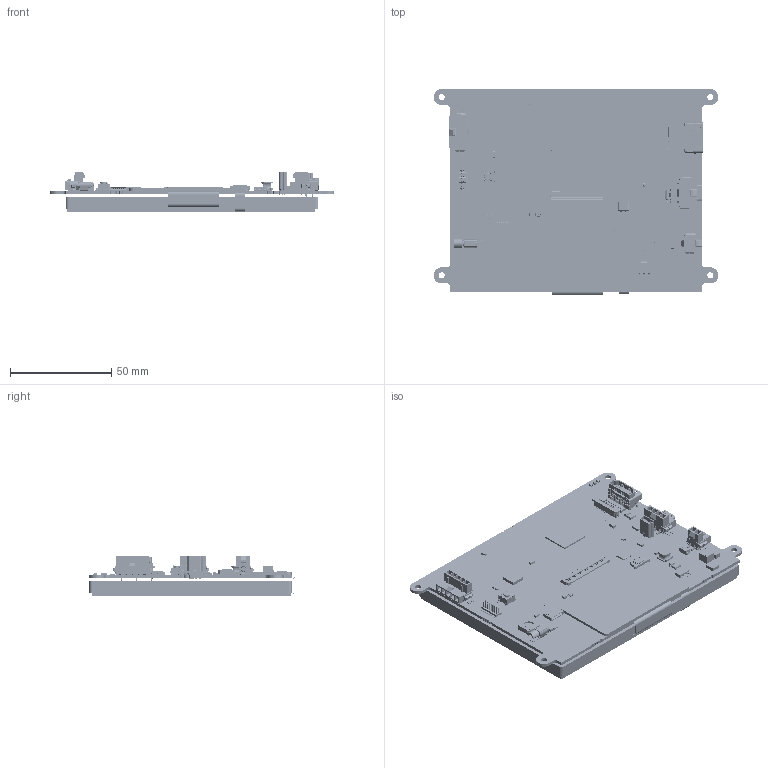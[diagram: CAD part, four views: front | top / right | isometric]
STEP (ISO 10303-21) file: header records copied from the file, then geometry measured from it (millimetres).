
FILE_DESCRIPTION (( 'STEP AP214' ), '1' );
FILE_NAME ('HTT57A-6640480W-TPR Rev. A.STEP', '2025-02-07T22:08:43', ( '' ), ( '' ), 'SwSTEP 2.0', 'SolidWorks 2021', '' );
FILE_SCHEMA (( 'AUTOMOTIVE_DESIGN' ));
Length unit declared in the file: millimetre
Products named in the file (5): MOPTFT640480-72 (TPR); HTT57A-6640480W R1.0.0; HTT57A-6640480W-TPR Rev. A; MOPTFT640480-72; MOPTFT640480-72R
Assembly tree (4 placements, depth 3):
  HTT57A-6640480W-TPR Rev. A
    HTT57A-6640480W R1.0.0
    MOPTFT640480-72R
      MOPTFT640480-72
      MOPTFT640480-72 (TPR)
Bounding box: 140.6 x 101.55 x 19.77 mm (x, y, z)
Volume: 93959.6 mm3; surface area: 98957 mm2
Topology: 6 solids, 252 shells, 15840 faces, 43816 edges, 28145 vertices
Faces by surface type: plane 11200, cylinder 3494, bspline 892, sphere 150, torus 62, cone 42
Entity records: 694632 total; most frequent: CARTESIAN_POINT 119315, ORIENTED_EDGE 87378, DIRECTION 78080, EDGE_CURVE 43722, LINE 34370, VECTOR 34370, VERTEX_POINT 28135, AXIS2_PLACEMENT_3D 21855
